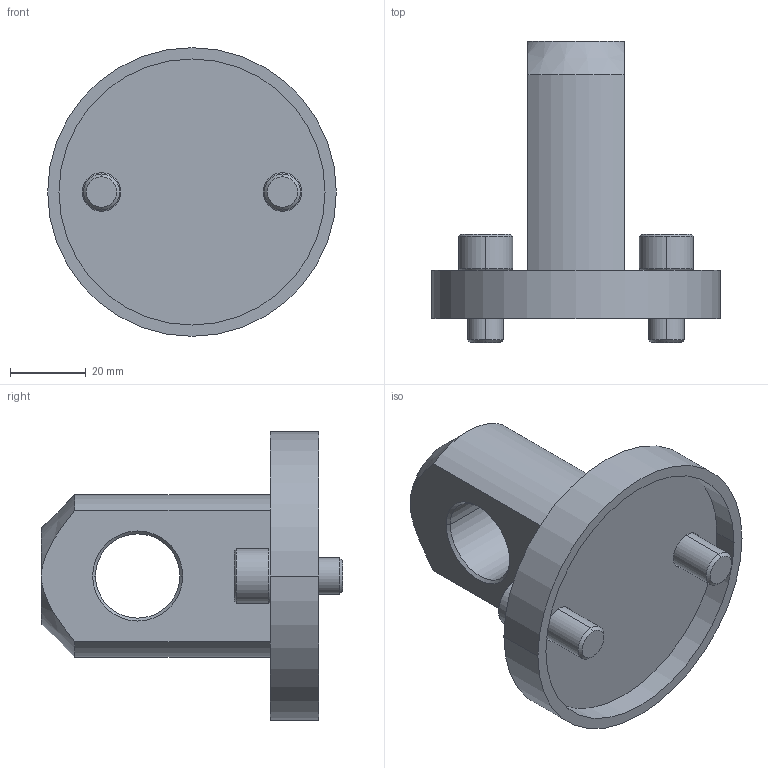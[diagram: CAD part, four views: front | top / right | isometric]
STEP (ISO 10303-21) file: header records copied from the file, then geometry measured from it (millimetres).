
FILE_DESCRIPTION((''),'2;1');
FILE_NAME('REB-15_ASM','2015-06-15T',('mike.ward'),(''),'PRO/ENGINEER BY PARAMETRIC TECHNOLOGY CORPORATION, 2014200','PRO/ENGINEER BY PARAMETRIC TECHNOLOGY CORPORATION, 2014200','');
FILE_SCHEMA(('CONFIG_CONTROL_DESIGN'));
Length unit declared in the file: inch
Products named in the file (4): MSBR-3; MSBR-2; MSBR-1; REB-15_ASM
Assembly tree (3 placements, depth 2):
  REB-15_ASM
    MSBR-3
    MSBR-2
    MSBR-1
Bounding box: 76.2 x 79.5 x 76.2 mm (x, y, z)
Volume: 87256.9 mm3; surface area: 24376.5 mm2
Topology: 3 solids, 3 shells, 68 faces, 150 edges, 94 vertices
Faces by surface type: plane 26, cylinder 20, cone 14, torus 8
Entity records: 2066 total; most frequent: CARTESIAN_POINT 381, DIRECTION 370, ORIENTED_EDGE 300, EDGE_CURVE 150, AXIS2_PLACEMENT_3D 149, VERTEX_POINT 94, EDGE_LOOP 80, CIRCLE 74
